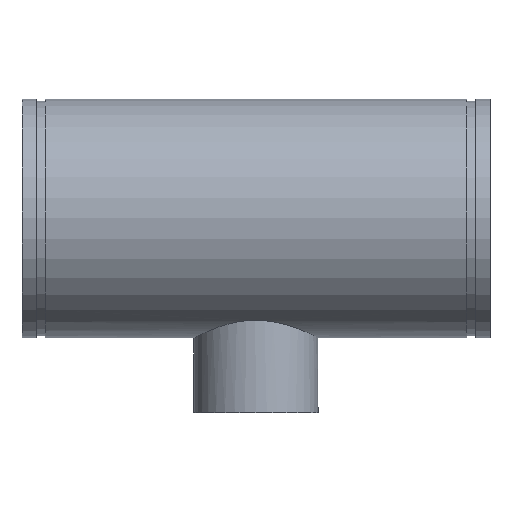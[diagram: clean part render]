
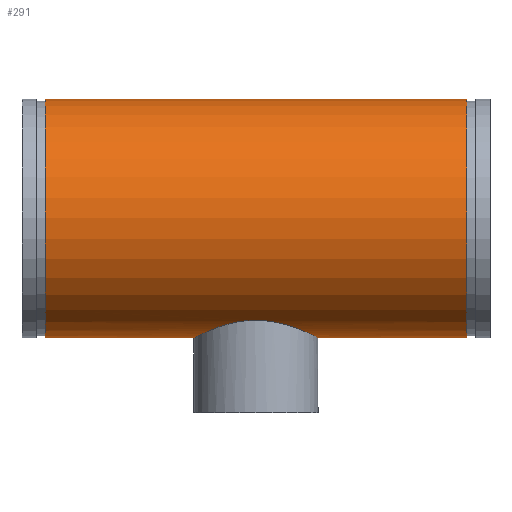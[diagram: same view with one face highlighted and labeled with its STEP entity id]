
A CAD part, top view. The second image highlights one B-rep face of the part: STEP entity #291.
In plain terms, the highlighted cylindrical face has radius 161.925 mm (diameter 323.85 mm), a full revolution.
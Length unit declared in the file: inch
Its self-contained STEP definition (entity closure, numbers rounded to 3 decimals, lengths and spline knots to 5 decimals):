
#45=B_SPLINE_CURVE_WITH_KNOTS('',3,(#511,#512,#513,#514,#515,#516,#517,
#518,#519,#520,#521,#522,#523,#524,#525,#526,#527,#528,#529,#530,#531,#532,
#533,#534,#535,#536,#537,#538,#539,#540,#541,#542,#543,#544,#545,#546,#547,
#548,#549,#550,#551,#552,#553,#554,#555,#556,#557,#558,#559,#560),
 .UNSPECIFIED.,.F.,.F.,(4,2,2,2,2,2,2,2,2,2,2,2,2,2,2,2,2,2,2,2,2,2,2,2,
4),(0.,1.62275,3.2455,4.86825,6.491,
8.10848,9.72595,11.34342,12.96089,14.57836,
16.19583,17.81331,19.43078,21.05353,22.67628,
24.29903,25.92178,27.54453,29.16728,30.79004,
32.41279,34.03026,35.64773,37.2652,38.88267),
 .UNSPECIFIED.);
#46=B_SPLINE_CURVE_WITH_KNOTS('',3,(#561,#562,#563,#564,#565,#566,#567,
#568,#569,#570,#571,#572,#573,#574,#575,#576,#577,#578),.UNSPECIFIED.,.F.,
 .F.,(4,2,2,2,2,2,2,2,4),(38.88267,40.50014,42.11762,
43.73509,45.35256,46.97531,48.59806,50.22081,
51.84356),.UNSPECIFIED.);
#51=LINE('',#508,#59);
#59=VECTOR('',#410,6.375);
#67=CYLINDRICAL_SURFACE('',#338,6.375);
#77=FACE_BOUND('',#108,.T.);
#88=FACE_OUTER_BOUND('',#107,.T.);
#107=EDGE_LOOP('',(#221,#222,#223,#224));
#108=EDGE_LOOP('',(#225,#226));
#121=CIRCLE('',#321,6.375);
#132=CIRCLE('',#337,6.375);
#141=VERTEX_POINT('',#476);
#152=VERTEX_POINT('',#505);
#153=VERTEX_POINT('',#509);
#154=VERTEX_POINT('',#510);
#165=EDGE_CURVE('',#141,#141,#121,.T.);
#178=EDGE_CURVE('',#152,#152,#132,.T.);
#179=EDGE_CURVE('',#152,#141,#51,.T.);
#180=EDGE_CURVE('',#153,#154,#45,.T.);
#181=EDGE_CURVE('',#154,#153,#46,.T.);
#221=ORIENTED_EDGE('',*,*,#178,.T.);
#222=ORIENTED_EDGE('',*,*,#179,.T.);
#223=ORIENTED_EDGE('',*,*,#165,.T.);
#224=ORIENTED_EDGE('',*,*,#179,.F.);
#225=ORIENTED_EDGE('',*,*,#180,.F.);
#226=ORIENTED_EDGE('',*,*,#181,.F.);
#291=ADVANCED_FACE('',(#88,#77),#67,.T.);
#321=AXIS2_PLACEMENT_3D('',#477,#372,#373);
#337=AXIS2_PLACEMENT_3D('',#506,#406,#407);
#338=AXIS2_PLACEMENT_3D('',#507,#408,#409);
#372=DIRECTION('center_axis',(-1.,0.,0.));
#373=DIRECTION('ref_axis',(0.,-1.,0.));
#406=DIRECTION('center_axis',(1.,0.,0.));
#407=DIRECTION('ref_axis',(0.,-1.,0.));
#408=DIRECTION('center_axis',(-1.,0.,0.));
#409=DIRECTION('ref_axis',(0.,-1.,0.));
#410=DIRECTION('',(1.,0.,0.));
#476=CARTESIAN_POINT('',(11.25,6.375,0.));
#477=CARTESIAN_POINT('Origin',(11.25,0.,0.));
#505=CARTESIAN_POINT('',(-11.25,6.375,0.));
#506=CARTESIAN_POINT('Origin',(-11.25,0.,0.));
#507=CARTESIAN_POINT('Origin',(12.5,0.,0.));
#508=CARTESIAN_POINT('',(12.5,6.375,0.));
#509=CARTESIAN_POINT('',(0.,-5.44683,-3.3125));
#510=CARTESIAN_POINT('',(-3.3125,-6.375,0.));
#511=CARTESIAN_POINT('Ctrl Pts',(0.,-5.44683,-3.3125));
#512=CARTESIAN_POINT('Ctrl Pts',(0.21296,-5.44683,-3.3125));
#513=CARTESIAN_POINT('Ctrl Pts',(0.43143,-5.45969,-3.29164));
#514=CARTESIAN_POINT('Ctrl Pts',(0.8629,-5.5106,-3.20569));
#515=CARTESIAN_POINT('Ctrl Pts',(1.07592,-5.54855,-3.14063));
#516=CARTESIAN_POINT('Ctrl Pts',(1.48225,-5.64145,-2.97054));
#517=CARTESIAN_POINT('Ctrl Pts',(1.67596,-5.69633,-2.86537));
#518=CARTESIAN_POINT('Ctrl Pts',(2.03346,-5.81157,-2.62378));
#519=CARTESIAN_POINT('Ctrl Pts',(2.19726,-5.87181,-2.48732));
#520=CARTESIAN_POINT('Ctrl Pts',(2.48685,-5.98621,-2.19773));
#521=CARTESIAN_POINT('Ctrl Pts',(2.62324,-6.04464,-2.03417));
#522=CARTESIAN_POINT('Ctrl Pts',(2.86502,-6.15342,-1.67658));
#523=CARTESIAN_POINT('Ctrl Pts',(2.97042,-6.2037,-1.48254));
#524=CARTESIAN_POINT('Ctrl Pts',(3.1408,-6.28705,-1.07551));
#525=CARTESIAN_POINT('Ctrl Pts',(3.2059,-6.32016,-0.86213));
#526=CARTESIAN_POINT('Ctrl Pts',(3.29177,-6.36414,-0.43052));
#527=CARTESIAN_POINT('Ctrl Pts',(3.3125,-6.375,-0.21227));
#528=CARTESIAN_POINT('Ctrl Pts',(3.3125,-6.375,0.21227));
#529=CARTESIAN_POINT('Ctrl Pts',(3.29177,-6.36414,0.43052));
#530=CARTESIAN_POINT('Ctrl Pts',(3.2059,-6.32016,0.86213));
#531=CARTESIAN_POINT('Ctrl Pts',(3.1408,-6.28705,1.07551));
#532=CARTESIAN_POINT('Ctrl Pts',(2.97042,-6.2037,1.48254));
#533=CARTESIAN_POINT('Ctrl Pts',(2.86502,-6.15342,1.67658));
#534=CARTESIAN_POINT('Ctrl Pts',(2.62324,-6.04464,2.03417));
#535=CARTESIAN_POINT('Ctrl Pts',(2.48685,-5.98621,2.19773));
#536=CARTESIAN_POINT('Ctrl Pts',(2.19726,-5.87181,2.48732));
#537=CARTESIAN_POINT('Ctrl Pts',(2.03346,-5.81157,2.62378));
#538=CARTESIAN_POINT('Ctrl Pts',(1.67596,-5.69633,2.86537));
#539=CARTESIAN_POINT('Ctrl Pts',(1.48225,-5.64145,2.97054));
#540=CARTESIAN_POINT('Ctrl Pts',(1.07592,-5.54855,3.14063));
#541=CARTESIAN_POINT('Ctrl Pts',(0.8629,-5.5106,3.20569));
#542=CARTESIAN_POINT('Ctrl Pts',(0.43143,-5.45969,3.29164));
#543=CARTESIAN_POINT('Ctrl Pts',(0.21296,-5.44683,3.3125));
#544=CARTESIAN_POINT('Ctrl Pts',(-0.21296,-5.44683,3.3125));
#545=CARTESIAN_POINT('Ctrl Pts',(-0.43143,-5.45969,3.29164));
#546=CARTESIAN_POINT('Ctrl Pts',(-0.8629,-5.5106,3.20569));
#547=CARTESIAN_POINT('Ctrl Pts',(-1.07592,-5.54855,3.14063));
#548=CARTESIAN_POINT('Ctrl Pts',(-1.48225,-5.64145,2.97054));
#549=CARTESIAN_POINT('Ctrl Pts',(-1.67596,-5.69633,2.86537));
#550=CARTESIAN_POINT('Ctrl Pts',(-2.03346,-5.81157,2.62378));
#551=CARTESIAN_POINT('Ctrl Pts',(-2.19726,-5.87181,2.48732));
#552=CARTESIAN_POINT('Ctrl Pts',(-2.48685,-5.98621,2.19773));
#553=CARTESIAN_POINT('Ctrl Pts',(-2.62324,-6.04464,2.03417));
#554=CARTESIAN_POINT('Ctrl Pts',(-2.86502,-6.15342,1.67658));
#555=CARTESIAN_POINT('Ctrl Pts',(-2.97042,-6.2037,1.48254));
#556=CARTESIAN_POINT('Ctrl Pts',(-3.1408,-6.28705,1.07551));
#557=CARTESIAN_POINT('Ctrl Pts',(-3.2059,-6.32016,0.86213));
#558=CARTESIAN_POINT('Ctrl Pts',(-3.29177,-6.36414,0.43052));
#559=CARTESIAN_POINT('Ctrl Pts',(-3.3125,-6.375,0.21227));
#560=CARTESIAN_POINT('Ctrl Pts',(-3.3125,-6.375,0.));
#561=CARTESIAN_POINT('Ctrl Pts',(-3.3125,-6.375,0.));
#562=CARTESIAN_POINT('Ctrl Pts',(-3.3125,-6.375,-0.21227));
#563=CARTESIAN_POINT('Ctrl Pts',(-3.29177,-6.36414,-0.43052));
#564=CARTESIAN_POINT('Ctrl Pts',(-3.2059,-6.32016,-0.86213));
#565=CARTESIAN_POINT('Ctrl Pts',(-3.1408,-6.28705,-1.07551));
#566=CARTESIAN_POINT('Ctrl Pts',(-2.97042,-6.2037,-1.48254));
#567=CARTESIAN_POINT('Ctrl Pts',(-2.86502,-6.15342,-1.67658));
#568=CARTESIAN_POINT('Ctrl Pts',(-2.62324,-6.04464,-2.03417));
#569=CARTESIAN_POINT('Ctrl Pts',(-2.48685,-5.98621,-2.19773));
#570=CARTESIAN_POINT('Ctrl Pts',(-2.19726,-5.87181,-2.48732));
#571=CARTESIAN_POINT('Ctrl Pts',(-2.03346,-5.81157,-2.62378));
#572=CARTESIAN_POINT('Ctrl Pts',(-1.67596,-5.69633,-2.86537));
#573=CARTESIAN_POINT('Ctrl Pts',(-1.48225,-5.64145,-2.97054));
#574=CARTESIAN_POINT('Ctrl Pts',(-1.07592,-5.54855,-3.14063));
#575=CARTESIAN_POINT('Ctrl Pts',(-0.8629,-5.5106,-3.20569));
#576=CARTESIAN_POINT('Ctrl Pts',(-0.43143,-5.45969,-3.29164));
#577=CARTESIAN_POINT('Ctrl Pts',(-0.21296,-5.44683,-3.3125));
#578=CARTESIAN_POINT('Ctrl Pts',(0.,-5.44683,
-3.3125));
